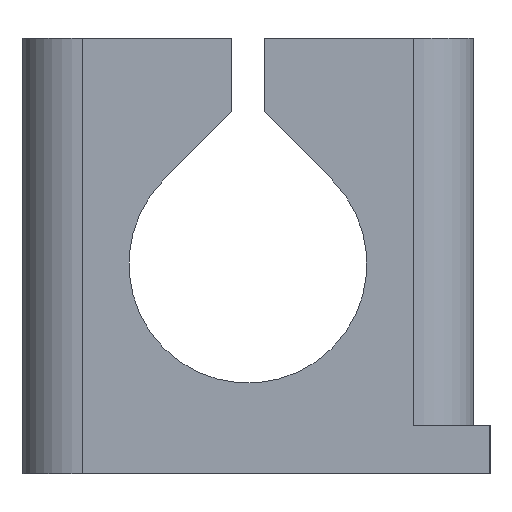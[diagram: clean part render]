
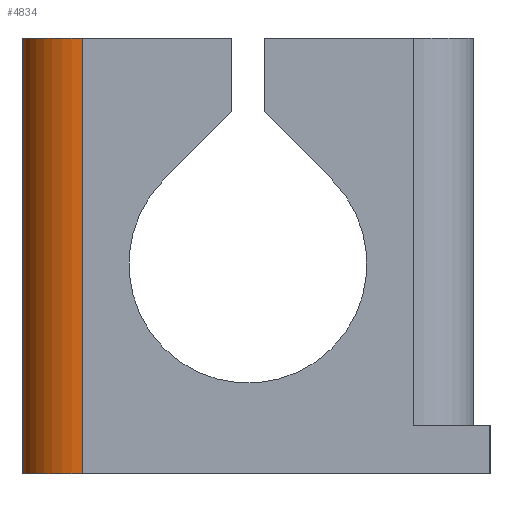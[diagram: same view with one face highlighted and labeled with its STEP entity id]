
A CAD part, left-side view. The second image highlights one B-rep face of the part: STEP entity #4834.
In plain terms, the highlighted cylindrical face has radius 1.5 mm (diameter 3 mm), a partial arc.
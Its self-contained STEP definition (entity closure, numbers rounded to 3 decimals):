
#32 = PLANE('',#33);
#33 = AXIS2_PLACEMENT_3D('',#34,#35,#36);
#34 = CARTESIAN_POINT('',(-5.,-5.6,0.));
#35 = DIRECTION('',(1.,0.,0.));
#36 = DIRECTION('',(0.,0.,1.));
#141 = VERTEX_POINT('',#142);
#142 = CARTESIAN_POINT('',(-5.,4.1,0.));
#156 = PLANE('',#157);
#157 = AXIS2_PLACEMENT_3D('',#158,#159,#160);
#158 = CARTESIAN_POINT('',(-5.,-5.6,0.));
#159 = DIRECTION('',(0.,0.,1.));
#160 = DIRECTION('',(1.,0.,-0.));
#168 = EDGE_CURVE('',#141,#169,#171,.T.);
#169 = VERTEX_POINT('',#170);
#170 = CARTESIAN_POINT('',(-5.,4.1,10.8));
#171 = SURFACE_CURVE('',#172,(#176,#183),.PCURVE_S1.);
#172 = LINE('',#173,#174);
#173 = CARTESIAN_POINT('',(-5.,4.1,0.));
#174 = VECTOR('',#175,1.);
#175 = DIRECTION('',(0.,0.,1.));
#176 = PCURVE('',#32,#177);
#177 = DEFINITIONAL_REPRESENTATION('',(#178),#182);
#178 = LINE('',#179,#180);
#179 = CARTESIAN_POINT('',(0.,-9.7));
#180 = VECTOR('',#181,1.);
#181 = DIRECTION('',(1.,0.));
#182 = ( GEOMETRIC_REPRESENTATION_CONTEXT(2) 
PARAMETRIC_REPRESENTATION_CONTEXT() REPRESENTATION_CONTEXT('2D SPACE',''
  ) );
#183 = PCURVE('',#184,#189);
#184 = CYLINDRICAL_SURFACE('',#185,1.5);
#185 = AXIS2_PLACEMENT_3D('',#186,#187,#188);
#186 = CARTESIAN_POINT('',(-3.5,4.1,0.));
#187 = DIRECTION('',(0.,0.,1.));
#188 = DIRECTION('',(-1.,-0.,0.));
#189 = DEFINITIONAL_REPRESENTATION('',(#190),#194);
#190 = LINE('',#191,#192);
#191 = CARTESIAN_POINT('',(-0.,0.));
#192 = VECTOR('',#193,1.);
#193 = DIRECTION('',(-0.,1.));
#194 = ( GEOMETRIC_REPRESENTATION_CONTEXT(2) 
PARAMETRIC_REPRESENTATION_CONTEXT() REPRESENTATION_CONTEXT('2D SPACE',''
  ) );
#212 = PLANE('',#213);
#213 = AXIS2_PLACEMENT_3D('',#214,#215,#216);
#214 = CARTESIAN_POINT('',(-5.,-5.6,10.8));
#215 = DIRECTION('',(0.,0.,1.));
#216 = DIRECTION('',(1.,0.,0.));
#4591 = PLANE('',#4592);
#4592 = AXIS2_PLACEMENT_3D('',#4593,#4594,#4595);
#4593 = CARTESIAN_POINT('',(-5.,5.6,0.));
#4594 = DIRECTION('',(0.,1.,0.));
#4595 = DIRECTION('',(0.,0.,1.));
#4630 = VERTEX_POINT('',#4631);
#4631 = CARTESIAN_POINT('',(-3.5,5.6,0.));
#4652 = EDGE_CURVE('',#4630,#4653,#4655,.T.);
#4653 = VERTEX_POINT('',#4654);
#4654 = CARTESIAN_POINT('',(-3.5,5.6,10.8));
#4655 = SURFACE_CURVE('',#4656,(#4660,#4667),.PCURVE_S1.);
#4656 = LINE('',#4657,#4658);
#4657 = CARTESIAN_POINT('',(-3.5,5.6,0.));
#4658 = VECTOR('',#4659,1.);
#4659 = DIRECTION('',(0.,0.,1.));
#4660 = PCURVE('',#4591,#4661);
#4661 = DEFINITIONAL_REPRESENTATION('',(#4662),#4666);
#4662 = LINE('',#4663,#4664);
#4663 = CARTESIAN_POINT('',(0.,1.5));
#4664 = VECTOR('',#4665,1.);
#4665 = DIRECTION('',(1.,0.));
#4666 = ( GEOMETRIC_REPRESENTATION_CONTEXT(2) 
PARAMETRIC_REPRESENTATION_CONTEXT() REPRESENTATION_CONTEXT('2D SPACE',''
  ) );
#4667 = PCURVE('',#184,#4668);
#4668 = DEFINITIONAL_REPRESENTATION('',(#4669),#4673);
#4669 = LINE('',#4670,#4671);
#4670 = CARTESIAN_POINT('',(-1.571,0.));
#4671 = VECTOR('',#4672,1.);
#4672 = DIRECTION('',(-0.,1.));
#4673 = ( GEOMETRIC_REPRESENTATION_CONTEXT(2) 
PARAMETRIC_REPRESENTATION_CONTEXT() REPRESENTATION_CONTEXT('2D SPACE',''
  ) );
#4809 = EDGE_CURVE('',#169,#4653,#4810,.T.);
#4810 = SURFACE_CURVE('',#4811,(#4816,#4827),.PCURVE_S1.);
#4811 = CIRCLE('',#4812,1.5);
#4812 = AXIS2_PLACEMENT_3D('',#4813,#4814,#4815);
#4813 = CARTESIAN_POINT('',(-3.5,4.1,10.8));
#4814 = DIRECTION('',(-0.,-0.,-1.));
#4815 = DIRECTION('',(0.,-1.,0.));
#4816 = PCURVE('',#212,#4817);
#4817 = DEFINITIONAL_REPRESENTATION('',(#4818),#4826);
#4818 = ( BOUNDED_CURVE() B_SPLINE_CURVE(2,(#4819,#4820,#4821,#4822,
#4823,#4824,#4825),.UNSPECIFIED.,.T.,.F.) B_SPLINE_CURVE_WITH_KNOTS((1,2
    ,2,2,2,1),(-2.094,0.,2.094,4.189,
6.283,8.378),.UNSPECIFIED.) CURVE() 
GEOMETRIC_REPRESENTATION_ITEM() RATIONAL_B_SPLINE_CURVE((1.,0.5,1.,0.5,
1.,0.5,1.)) REPRESENTATION_ITEM('') );
#4819 = CARTESIAN_POINT('',(1.5,8.2));
#4820 = CARTESIAN_POINT('',(-1.098,8.2));
#4821 = CARTESIAN_POINT('',(0.201,10.45));
#4822 = CARTESIAN_POINT('',(1.5,12.7));
#4823 = CARTESIAN_POINT('',(2.799,10.45));
#4824 = CARTESIAN_POINT('',(4.098,8.2));
#4825 = CARTESIAN_POINT('',(1.5,8.2));
#4826 = ( GEOMETRIC_REPRESENTATION_CONTEXT(2) 
PARAMETRIC_REPRESENTATION_CONTEXT() REPRESENTATION_CONTEXT('2D SPACE',''
  ) );
#4827 = PCURVE('',#184,#4828);
#4828 = DEFINITIONAL_REPRESENTATION('',(#4829),#4833);
#4829 = LINE('',#4830,#4831);
#4830 = CARTESIAN_POINT('',(1.571,10.8));
#4831 = VECTOR('',#4832,1.);
#4832 = DIRECTION('',(-1.,0.));
#4833 = ( GEOMETRIC_REPRESENTATION_CONTEXT(2) 
PARAMETRIC_REPRESENTATION_CONTEXT() REPRESENTATION_CONTEXT('2D SPACE',''
  ) );
#4834 = ADVANCED_FACE('',(#4835),#184,.T.);
#4835 = FACE_BOUND('',#4836,.F.);
#4836 = EDGE_LOOP('',(#4837,#4863,#4864,#4865));
#4837 = ORIENTED_EDGE('',*,*,#4838,.T.);
#4838 = EDGE_CURVE('',#141,#4630,#4839,.T.);
#4839 = SURFACE_CURVE('',#4840,(#4845,#4852),.PCURVE_S1.);
#4840 = CIRCLE('',#4841,1.5);
#4841 = AXIS2_PLACEMENT_3D('',#4842,#4843,#4844);
#4842 = CARTESIAN_POINT('',(-3.5,4.1,0.));
#4843 = DIRECTION('',(-0.,-0.,-1.));
#4844 = DIRECTION('',(0.,-1.,0.));
#4845 = PCURVE('',#184,#4846);
#4846 = DEFINITIONAL_REPRESENTATION('',(#4847),#4851);
#4847 = LINE('',#4848,#4849);
#4848 = CARTESIAN_POINT('',(1.571,-0.));
#4849 = VECTOR('',#4850,1.);
#4850 = DIRECTION('',(-1.,0.));
#4851 = ( GEOMETRIC_REPRESENTATION_CONTEXT(2) 
PARAMETRIC_REPRESENTATION_CONTEXT() REPRESENTATION_CONTEXT('2D SPACE',''
  ) );
#4852 = PCURVE('',#156,#4853);
#4853 = DEFINITIONAL_REPRESENTATION('',(#4854),#4862);
#4854 = ( BOUNDED_CURVE() B_SPLINE_CURVE(2,(#4855,#4856,#4857,#4858,
#4859,#4860,#4861),.UNSPECIFIED.,.T.,.F.) B_SPLINE_CURVE_WITH_KNOTS((1,2
    ,2,2,2,1),(-2.094,0.,2.094,4.189,
6.283,8.378),.UNSPECIFIED.) CURVE() 
GEOMETRIC_REPRESENTATION_ITEM() RATIONAL_B_SPLINE_CURVE((1.,0.5,1.,0.5,
1.,0.5,1.)) REPRESENTATION_ITEM('') );
#4855 = CARTESIAN_POINT('',(1.5,8.2));
#4856 = CARTESIAN_POINT('',(-1.098,8.2));
#4857 = CARTESIAN_POINT('',(0.201,10.45));
#4858 = CARTESIAN_POINT('',(1.5,12.7));
#4859 = CARTESIAN_POINT('',(2.799,10.45));
#4860 = CARTESIAN_POINT('',(4.098,8.2));
#4861 = CARTESIAN_POINT('',(1.5,8.2));
#4862 = ( GEOMETRIC_REPRESENTATION_CONTEXT(2) 
PARAMETRIC_REPRESENTATION_CONTEXT() REPRESENTATION_CONTEXT('2D SPACE',''
  ) );
#4863 = ORIENTED_EDGE('',*,*,#4652,.T.);
#4864 = ORIENTED_EDGE('',*,*,#4809,.F.);
#4865 = ORIENTED_EDGE('',*,*,#168,.F.);
